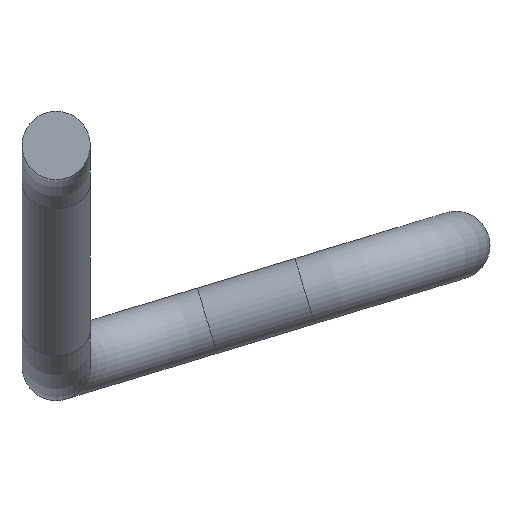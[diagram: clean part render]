
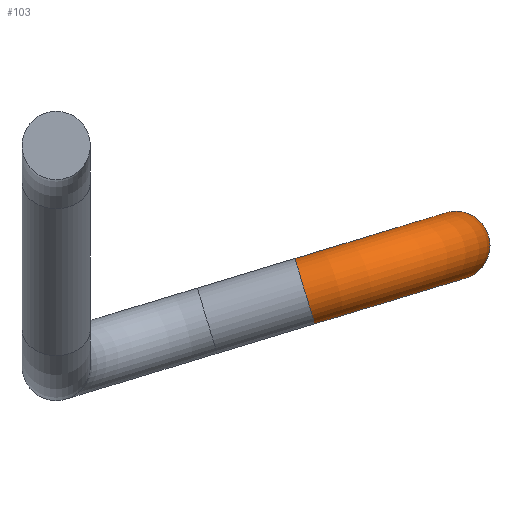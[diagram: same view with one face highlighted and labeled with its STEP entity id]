
A CAD part, front view. The second image highlights one B-rep face of the part: STEP entity #103.
In plain terms, the highlighted toroidal (fillet/blend) face has major radius 3 mm and minor radius 0.65 mm.
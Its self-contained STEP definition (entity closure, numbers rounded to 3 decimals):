
#24 = VERTEX_POINT('',#25);
#25 = CARTESIAN_POINT('',(-19.8,25.,-7.25));
#32 = CYLINDRICAL_SURFACE('',#33,0.65);
#33 = AXIS2_PLACEMENT_3D('',#34,#35,#36);
#34 = CARTESIAN_POINT('',(-19.8,42.,-6.6));
#35 = DIRECTION('',(0.,-1.,0.));
#36 = DIRECTION('',(0.,0.,-1.));
#50 = EDGE_CURVE('',#24,#24,#51,.T.);
#51 = SURFACE_CURVE('',#52,(#57,#64),.PCURVE_S1.);
#52 = CIRCLE('',#53,0.65);
#53 = AXIS2_PLACEMENT_3D('',#54,#55,#56);
#54 = CARTESIAN_POINT('',(-19.8,25.,-6.6));
#55 = DIRECTION('',(0.,-1.,0.));
#56 = DIRECTION('',(0.,0.,-1.));
#57 = PCURVE('',#32,#58);
#58 = DEFINITIONAL_REPRESENTATION('',(#59),#63);
#59 = LINE('',#60,#61);
#60 = CARTESIAN_POINT('',(0.,17.));
#61 = VECTOR('',#62,1.);
#62 = DIRECTION('',(1.,0.));
#63 = ( GEOMETRIC_REPRESENTATION_CONTEXT(2) 
PARAMETRIC_REPRESENTATION_CONTEXT() REPRESENTATION_CONTEXT('2D SPACE',''
  ) );
#64 = PCURVE('',#65,#70);
#65 = TOROIDAL_SURFACE('',#66,3.,0.65);
#66 = AXIS2_PLACEMENT_3D('',#67,#68,#69);
#67 = CARTESIAN_POINT('',(-22.671,25.,-7.469));
#68 = DIRECTION('',(0.29,0.,-0.957));
#69 = DIRECTION('',(0.957,0.,0.29));
#70 = DEFINITIONAL_REPRESENTATION('',(#71),#74);
#71 = B_SPLINE_CURVE_WITH_KNOTS('',1,(#72,#73),.UNSPECIFIED.,.F.,.F.,(2,
    2),(0.,6.283),.PIECEWISE_BEZIER_KNOTS.);
#72 = CARTESIAN_POINT('',(0.,8.148));
#73 = CARTESIAN_POINT('',(0.,1.865));
#74 = ( GEOMETRIC_REPRESENTATION_CONTEXT(2) 
PARAMETRIC_REPRESENTATION_CONTEXT() REPRESENTATION_CONTEXT('2D SPACE',''
  ) );
#103 = ADVANCED_FACE('',(#104),#65,.T.);
#104 = FACE_BOUND('',#105,.T.);
#105 = EDGE_LOOP('',(#106,#129,#155,#156));
#106 = ORIENTED_EDGE('',*,*,#107,.T.);
#107 = EDGE_CURVE('',#24,#108,#110,.T.);
#108 = VERTEX_POINT('',#109);
#109 = CARTESIAN_POINT('',(-22.491,22.188,
    -8.064));
#110 = SEAM_CURVE('',#111,(#116,#122),.PCURVE_S1.);
#111 = CIRCLE('',#112,2.812);
#112 = AXIS2_PLACEMENT_3D('',#113,#114,#115);
#113 = CARTESIAN_POINT('',(-22.491,25.,-8.064));
#114 = DIRECTION('',(0.29,0.,-0.957));
#115 = DIRECTION('',(0.957,0.,0.29));
#116 = PCURVE('',#65,#117);
#117 = DEFINITIONAL_REPRESENTATION('',(#118),#121);
#118 = B_SPLINE_CURVE_WITH_KNOTS('',1,(#119,#120),.UNSPECIFIED.,.F.,.F.,
  (2,2),(0.,1.571),.PIECEWISE_BEZIER_KNOTS.);
#119 = CARTESIAN_POINT('',(0.,1.865));
#120 = CARTESIAN_POINT('',(1.571,1.865));
#121 = ( GEOMETRIC_REPRESENTATION_CONTEXT(2) 
PARAMETRIC_REPRESENTATION_CONTEXT() REPRESENTATION_CONTEXT('2D SPACE',''
  ) );
#122 = PCURVE('',#65,#123);
#123 = DEFINITIONAL_REPRESENTATION('',(#124),#128);
#124 = LINE('',#125,#126);
#125 = CARTESIAN_POINT('',(0.,8.148));
#126 = VECTOR('',#127,1.);
#127 = DIRECTION('',(1.,0.));
#128 = ( GEOMETRIC_REPRESENTATION_CONTEXT(2) 
PARAMETRIC_REPRESENTATION_CONTEXT() REPRESENTATION_CONTEXT('2D SPACE',''
  ) );
#129 = ORIENTED_EDGE('',*,*,#130,.T.);
#130 = EDGE_CURVE('',#108,#108,#131,.T.);
#131 = SURFACE_CURVE('',#132,(#137,#144),.PCURVE_S1.);
#132 = CIRCLE('',#133,0.65);
#133 = AXIS2_PLACEMENT_3D('',#134,#135,#136);
#134 = CARTESIAN_POINT('',(-22.671,22.,-7.469));
#135 = DIRECTION('',(0.957,0.,0.29));
#136 = DIRECTION('',(0.,-1.,0.));
#137 = PCURVE('',#65,#138);
#138 = DEFINITIONAL_REPRESENTATION('',(#139),#143);
#139 = LINE('',#140,#141);
#140 = CARTESIAN_POINT('',(1.571,0.));
#141 = VECTOR('',#142,1.);
#142 = DIRECTION('',(0.,1.));
#143 = ( GEOMETRIC_REPRESENTATION_CONTEXT(2) 
PARAMETRIC_REPRESENTATION_CONTEXT() REPRESENTATION_CONTEXT('2D SPACE',''
  ) );
#144 = PCURVE('',#145,#150);
#145 = CYLINDRICAL_SURFACE('',#146,0.65);
#146 = AXIS2_PLACEMENT_3D('',#147,#148,#149);
#147 = CARTESIAN_POINT('',(-22.671,22.,-7.469));
#148 = DIRECTION('',(-0.957,0.,-0.29));
#149 = DIRECTION('',(0.277,0.29,-0.916));
#150 = DEFINITIONAL_REPRESENTATION('',(#151),#154);
#151 = B_SPLINE_CURVE_WITH_KNOTS('',1,(#152,#153),.UNSPECIFIED.,.F.,.F.,
  (2,2),(1.865,8.148),.PIECEWISE_BEZIER_KNOTS.);
#152 = CARTESIAN_POINT('',(6.283,0.));
#153 = CARTESIAN_POINT('',(0.,0.));
#154 = ( GEOMETRIC_REPRESENTATION_CONTEXT(2) 
PARAMETRIC_REPRESENTATION_CONTEXT() REPRESENTATION_CONTEXT('2D SPACE',''
  ) );
#155 = ORIENTED_EDGE('',*,*,#107,.F.);
#156 = ORIENTED_EDGE('',*,*,#50,.T.);
